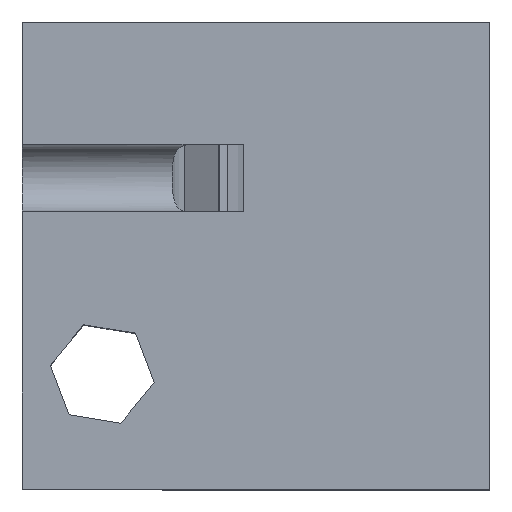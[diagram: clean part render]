
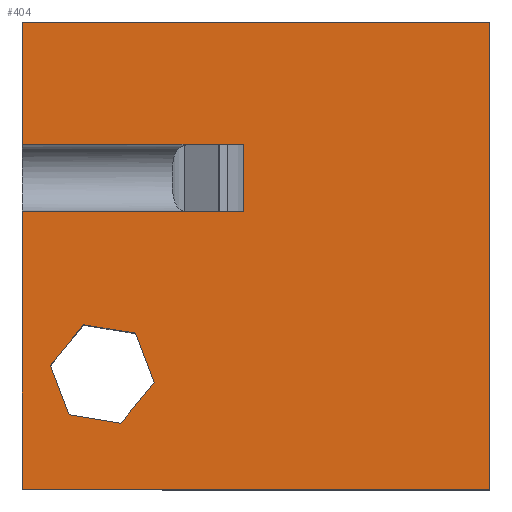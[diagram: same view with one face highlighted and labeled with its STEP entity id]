
A CAD part, top view. The second image highlights one B-rep face of the part: STEP entity #404.
In plain terms, the highlighted planar face has unit normal (0, 0, 1).
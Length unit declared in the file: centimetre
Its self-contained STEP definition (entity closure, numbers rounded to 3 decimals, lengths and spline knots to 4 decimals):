
#15 = LINE ( 'NONE', #1451, #1416 ) ;
#18 = CARTESIAN_POINT ( 'NONE',  ( 1000., 1000., 1000. ) ) ;
#50 = ORIENTED_EDGE ( 'NONE', *, *, #409, .T. ) ;
#58 = ORIENTED_EDGE ( 'NONE', *, *, #1104, .T. ) ;
#64 = VECTOR ( 'NONE', #934, 100. ) ;
#67 = VERTEX_POINT ( 'NONE', #622 ) ;
#68 = ORIENTED_EDGE ( 'NONE', *, *, #1162, .F. ) ;
#71 = ORIENTED_EDGE ( 'NONE', *, *, #704, .F. ) ;
#105 = CARTESIAN_POINT ( 'NONE',  ( 1000., 1000., 1000. ) ) ;
#128 = ORIENTED_EDGE ( 'NONE', *, *, #1543, .F. ) ;
#145 = VECTOR ( 'NONE', #412, 100. ) ;
#162 = CARTESIAN_POINT ( 'NONE',  ( 99.7315, 159.3108, 1000. ) ) ;
#167 = LINE ( 'NONE', #654, #322 ) ;
#178 = DIRECTION ( 'NONE',  ( 0., -1., 0. ) ) ;
#196 = VECTOR ( 'NONE', #1016, 100. ) ;
#205 = FACE_OUTER_BOUND ( 'NONE', #241, .T. ) ;
#219 = VECTOR ( 'NONE', #1364, 100. ) ;
#220 = ORIENTED_EDGE ( 'NONE', *, *, #1365, .F. ) ;
#228 = EDGE_CURVE ( 'NONE', #1501, #609, #972, .T. ) ;
#232 = LINE ( 'NONE', #1389, #64 ) ;
#241 = EDGE_LOOP ( 'NONE', ( #220, #58, #1020, #731, #406, #245, #1359, #50 ) ) ;
#245 = ORIENTED_EDGE ( 'NONE', *, *, #448, .T. ) ;
#288 = CARTESIAN_POINT ( 'NONE',  ( 59.7121, 264.6782, 1000. ) ) ;
#318 = DIRECTION ( 'NONE',  ( 0.632, 0.775, 0. ) ) ;
#322 = VECTOR ( 'NONE', #425, 100. ) ;
#386 = DIRECTION ( 'NONE',  ( -0.355, 0.935, 0. ) ) ;
#404 = ADVANCED_FACE ( 'NONE', ( #205, #832 ), #1306, .T. ) ;
#406 = ORIENTED_EDGE ( 'NONE', *, *, #554, .T. ) ;
#409 = EDGE_CURVE ( 'NONE', #1160, #807, #232, .T. ) ;
#412 = DIRECTION ( 'NONE',  ( -1., 0., 0. ) ) ;
#425 = DIRECTION ( 'NONE',  ( -0.987, 0.16, 0. ) ) ;
#439 = ORIENTED_EDGE ( 'NONE', *, *, #806, .F. ) ;
#440 = VERTEX_POINT ( 'NONE', #1205 ) ;
#448 = EDGE_CURVE ( 'NONE', #682, #933, #1222, .T. ) ;
#457 = VECTOR ( 'NONE', #896, 100. ) ;
#465 = CARTESIAN_POINT ( 'NONE',  ( 242.2137, 333.9937, 1000. ) ) ;
#522 = CARTESIAN_POINT ( 'NONE',  ( 130.9532, 352.0196, 1000. ) ) ;
#529 = CARTESIAN_POINT ( 'NONE',  ( 59.7121, 264.6782, 1000. ) ) ;
#536 = LINE ( 'NONE', #1374, #584 ) ;
#554 = EDGE_CURVE ( 'NONE', #609, #682, #1103, .T. ) ;
#584 = VECTOR ( 'NONE', #318, 100. ) ;
#593 = CARTESIAN_POINT ( 'NONE',  ( 472.6584, 738.0835, 1000. ) ) ;
#599 = CARTESIAN_POINT ( 'NONE',  ( 0., 0., 1000. ) ) ;
#609 = VERTEX_POINT ( 'NONE', #1355 ) ;
#621 = DIRECTION ( 'NONE',  ( 0., 1., 0. ) ) ;
#622 = CARTESIAN_POINT ( 'NONE',  ( 130.9532, 352.0196, 1000. ) ) ;
#654 = CARTESIAN_POINT ( 'NONE',  ( 242.2137, 333.9937, 1000. ) ) ;
#657 = ORIENTED_EDGE ( 'NONE', *, *, #1277, .F. ) ;
#663 = CARTESIAN_POINT ( 'NONE',  ( 0., 738.0835, 1000. ) ) ;
#680 = VECTOR ( 'NONE', #1443, 100. ) ;
#681 = EDGE_LOOP ( 'NONE', ( #657, #68, #1412, #71, #128, #439 ) ) ;
#682 = VERTEX_POINT ( 'NONE', #1000 ) ;
#694 = CARTESIAN_POINT ( 'NONE',  ( 0., 0., 1000. ) ) ;
#704 = EDGE_CURVE ( 'NONE', #726, #743, #761, .T. ) ;
#705 = EDGE_CURVE ( 'NONE', #933, #1160, #913, .T. ) ;
#720 = VECTOR ( 'NONE', #843, 100. ) ;
#726 = VERTEX_POINT ( 'NONE', #529 ) ;
#731 = ORIENTED_EDGE ( 'NONE', *, *, #228, .T. ) ;
#743 = VERTEX_POINT ( 'NONE', #1488 ) ;
#761 = LINE ( 'NONE', #288, #196 ) ;
#762 = CARTESIAN_POINT ( 'NONE',  ( 0., 594.0501, 1000. ) ) ;
#782 = LINE ( 'NONE', #1247, #145 ) ;
#786 = CARTESIAN_POINT ( 'NONE',  ( 472.6584, 738.0835, 1000. ) ) ;
#793 = CARTESIAN_POINT ( 'NONE',  ( 472.6584, 0., 1000. ) ) ;
#806 = EDGE_CURVE ( 'NONE', #1269, #67, #167, .T. ) ;
#807 = VERTEX_POINT ( 'NONE', #663 ) ;
#812 = VERTEX_POINT ( 'NONE', #1135 ) ;
#832 = FACE_BOUND ( 'NONE', #681, .T. ) ;
#843 = DIRECTION ( 'NONE',  ( 1., 0., 0. ) ) ;
#849 = VECTOR ( 'NONE', #178, 100. ) ;
#857 = LINE ( 'NONE', #593, #680 ) ;
#866 = DIRECTION ( 'NONE',  ( 0., -1., 0. ) ) ;
#889 = CARTESIAN_POINT ( 'NONE',  ( 282.2331, 228.6264, 1000. ) ) ;
#896 = DIRECTION ( 'NONE',  ( 0.987, -0.16, 0. ) ) ;
#913 = LINE ( 'NONE', #1498, #219 ) ;
#919 = DIRECTION ( 'NONE',  ( 1., 0., 0. ) ) ;
#933 = VERTEX_POINT ( 'NONE', #18 ) ;
#934 = DIRECTION ( 'NONE',  ( 0., -1., 0. ) ) ;
#972 = LINE ( 'NONE', #1453, #1368 ) ;
#1000 = CARTESIAN_POINT ( 'NONE',  ( 1000., 0., 1000. ) ) ;
#1016 = DIRECTION ( 'NONE',  ( 0.355, -0.935, 0. ) ) ;
#1018 = DIRECTION ( 'NONE',  ( -0.632, -0.775, 0. ) ) ;
#1020 = ORIENTED_EDGE ( 'NONE', *, *, #1032, .T. ) ;
#1032 = EDGE_CURVE ( 'NONE', #812, #1501, #782, .T. ) ;
#1103 = LINE ( 'NONE', #599, #720 ) ;
#1104 = EDGE_CURVE ( 'NONE', #1195, #812, #1380, .T. ) ;
#1135 = CARTESIAN_POINT ( 'NONE',  ( 472.6584, 594.0501, 1000. ) ) ;
#1147 = AXIS2_PLACEMENT_3D ( 'NONE', #694, #1169, #919 ) ;
#1160 = VERTEX_POINT ( 'NONE', #1387 ) ;
#1162 = EDGE_CURVE ( 'NONE', #440, #1483, #536, .T. ) ;
#1169 = DIRECTION ( 'NONE',  ( 0., 0., 1. ) ) ;
#1195 = VERTEX_POINT ( 'NONE', #786 ) ;
#1205 = CARTESIAN_POINT ( 'NONE',  ( 210.9919, 141.2849, 1000. ) ) ;
#1222 = LINE ( 'NONE', #105, #1224 ) ;
#1224 = VECTOR ( 'NONE', #621, 100. ) ;
#1236 = LINE ( 'NONE', #162, #457 ) ;
#1244 = LINE ( 'NONE', #522, #1467 ) ;
#1247 = CARTESIAN_POINT ( 'NONE',  ( 472.6584, 594.0501, 1000. ) ) ;
#1269 = VERTEX_POINT ( 'NONE', #465 ) ;
#1277 = EDGE_CURVE ( 'NONE', #1483, #1269, #15, .T. ) ;
#1306 = PLANE ( 'NONE',  #1147 ) ;
#1355 = CARTESIAN_POINT ( 'NONE',  ( 0., 0., 1000. ) ) ;
#1359 = ORIENTED_EDGE ( 'NONE', *, *, #705, .T. ) ;
#1364 = DIRECTION ( 'NONE',  ( -1., 0., 0. ) ) ;
#1365 = EDGE_CURVE ( 'NONE', #1195, #807, #857, .T. ) ;
#1368 = VECTOR ( 'NONE', #866, 100. ) ;
#1374 = CARTESIAN_POINT ( 'NONE',  ( 210.9919, 141.2849, 1000. ) ) ;
#1380 = LINE ( 'NONE', #793, #849 ) ;
#1387 = CARTESIAN_POINT ( 'NONE',  ( 0., 1000., 1000. ) ) ;
#1389 = CARTESIAN_POINT ( 'NONE',  ( 0., 1000., 1000. ) ) ;
#1412 = ORIENTED_EDGE ( 'NONE', *, *, #1527, .F. ) ;
#1416 = VECTOR ( 'NONE', #386, 100. ) ;
#1443 = DIRECTION ( 'NONE',  ( -1., 0., 0. ) ) ;
#1451 = CARTESIAN_POINT ( 'NONE',  ( 282.2331, 228.6264, 1000. ) ) ;
#1453 = CARTESIAN_POINT ( 'NONE',  ( 0., 1000., 1000. ) ) ;
#1467 = VECTOR ( 'NONE', #1018, 100. ) ;
#1483 = VERTEX_POINT ( 'NONE', #889 ) ;
#1488 = CARTESIAN_POINT ( 'NONE',  ( 99.7315, 159.3108, 1000. ) ) ;
#1498 = CARTESIAN_POINT ( 'NONE',  ( 0., 1000., 1000. ) ) ;
#1501 = VERTEX_POINT ( 'NONE', #762 ) ;
#1527 = EDGE_CURVE ( 'NONE', #743, #440, #1236, .T. ) ;
#1543 = EDGE_CURVE ( 'NONE', #67, #726, #1244, .T. ) ;
